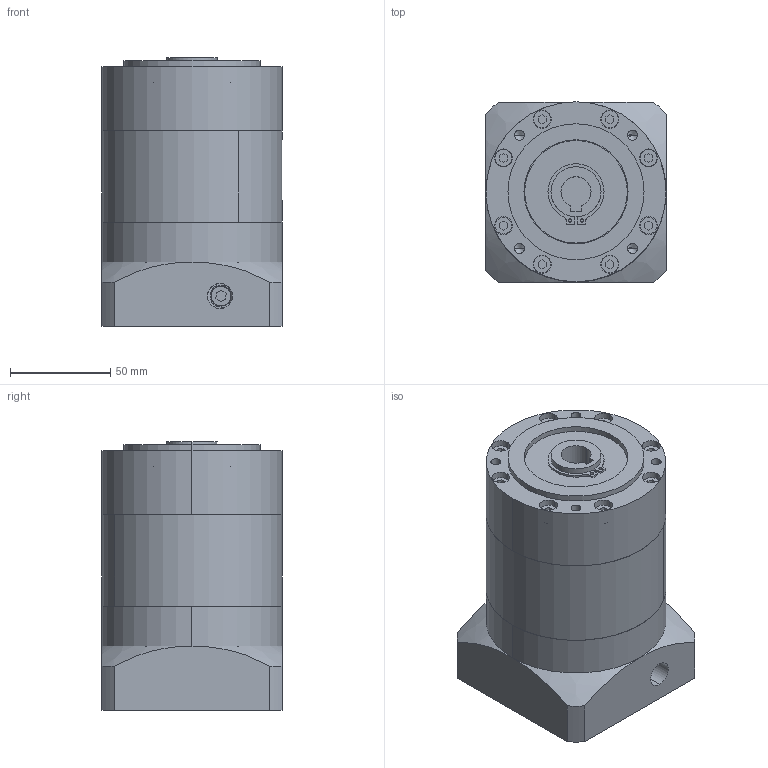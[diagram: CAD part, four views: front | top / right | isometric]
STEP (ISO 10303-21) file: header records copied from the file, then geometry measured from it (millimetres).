
FILE_DESCRIPTION (( 'STEP AP203' ), '1' );
FILE_NAME ('PBE90-L2-19-70-90.STEP', '2022-07-23T08:48:01', ( 'Windows User' ), ( 'P R C' ), 'SwSTEP 2.0', 'SolidWorks 2016', '' );
FILE_SCHEMA (( 'CONFIG_CONTROL_DESIGN' ));
Length unit declared in the file: millimetre
Products named in the file (7): PBE90 內齿圈-优化_二级内齿圈; PBE90 狟屳唳_D6-90 D7-19 梓袧; 囀鞠褒蹟佪 M6x20; 粣創-6007 35x62x14; PBE90 蟀諉啣-梓袧_D8-70 D9-90 D10-M5 A2-90 L4-32 L6-47(32+15) L7-6 R-59.5梓袧; PBE90 奻屳唳; PBE90-L2-19-70-90
Assembly tree (6 placements, depth 2):
  PBE90-L2-19-70-90
    PBE90 內齿圈-优化_二级内齿圈
    PBE90 狟屳唳_D6-90 D7-19 梓袧
    囀鞠褒蹟佪 M6x20
    粣創-6007 35x62x14
    PBE90 蟀諉啣-梓袧_D8-70 D9-90 D10-M5 A2-90 L4-32 L6-47(32+15) L7-6 R-59.5梓袧
    PBE90 奻屳唳
Bounding box: 90 x 90 x 134 mm (x, y, z)
Volume: 774824.6 mm3; surface area: 145683.8 mm2
Topology: 6 solids, 6 shells, 1044 faces, 2775 edges, 1829 vertices
Faces by surface type: plane 538, bspline 301, cylinder 187, cone 18
Entity records: 44629 total; most frequent: CARTESIAN_POINT 19777, ORIENTED_EDGE 5518, DIRECTION 4171, EDGE_CURVE 2759, VERTEX_POINT 1829, AXIS2_PLACEMENT_3D 1401, VECTOR 1369, LINE 1369
